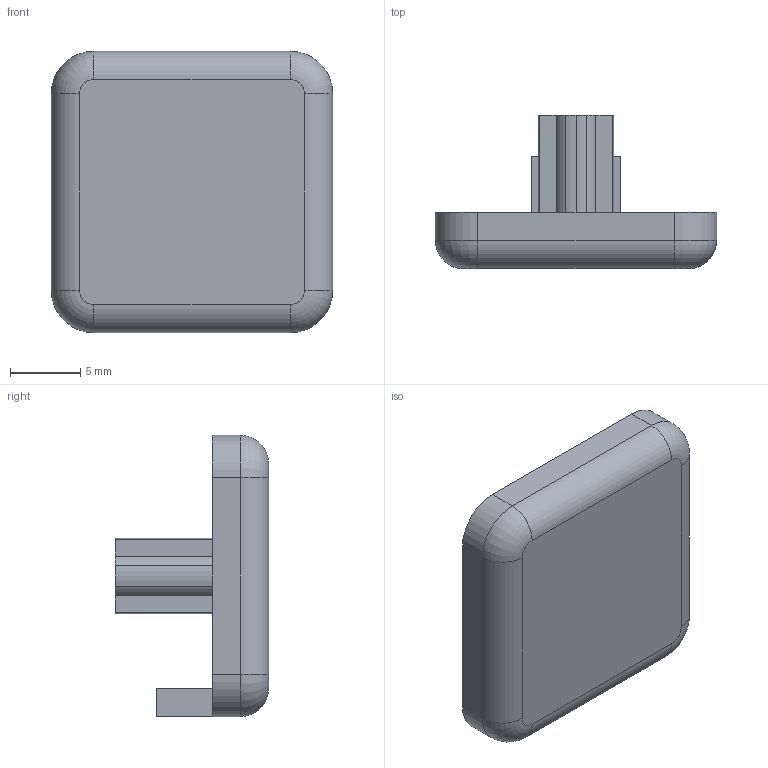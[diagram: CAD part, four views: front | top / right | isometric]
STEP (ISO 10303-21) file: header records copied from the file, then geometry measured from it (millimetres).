
FILE_DESCRIPTION (( 'STEP AP203' ), '1' );
FILE_NAME ('EC20X20.STEP', '2018-03-15T12:36:55', ( '' ), ( '' ), 'SwSTEP 2.0', 'SolidWorks 2013', '' );
FILE_SCHEMA (( 'CONFIG_CONTROL_DESIGN' ));
Length unit declared in the file: millimetre
Products named in the file (1): EC20X20
Bounding box: 20 x 10.9 x 20 mm (x, y, z)
Volume: 1394.4 mm3; surface area: 1309.4 mm2
Topology: 1 solids, 1 shells, 44 faces, 115 edges, 74 vertices
Faces by surface type: plane 23, cylinder 17, torus 4
Entity records: 1430 total; most frequent: DIRECTION 243, CARTESIAN_POINT 234, ORIENTED_EDGE 230, EDGE_CURVE 115, AXIS2_PLACEMENT_3D 83, VECTOR 77, LINE 77, VERTEX_POINT 74
